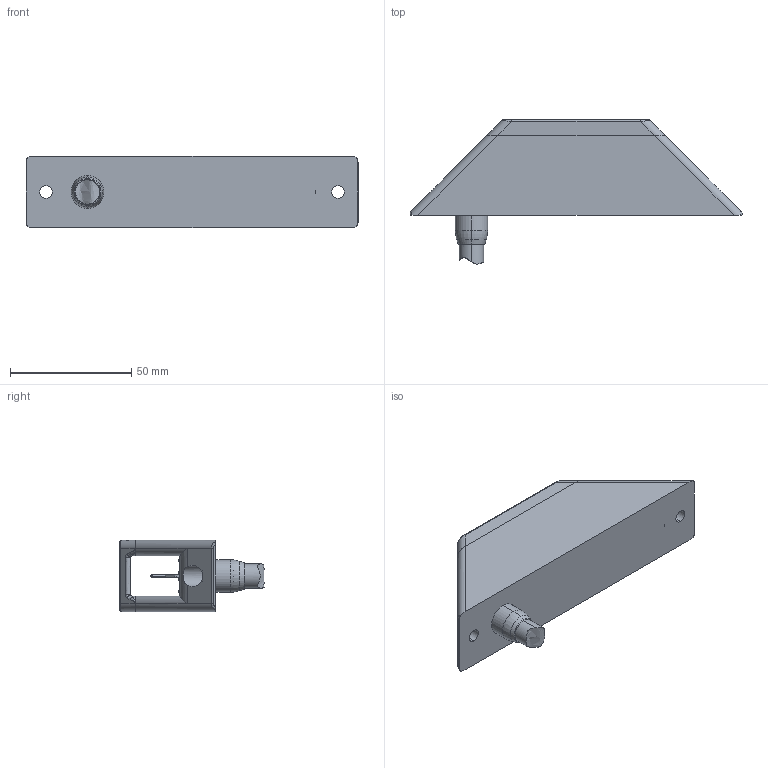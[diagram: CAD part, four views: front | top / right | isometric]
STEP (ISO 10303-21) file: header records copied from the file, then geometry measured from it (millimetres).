
FILE_DESCRIPTION (( 'STEP AP214' ), '1' );
FILE_NAME ('10073 Model 501-2 MCIL8M RevA NO DETAILS.STEP', '2025-08-17T04:33:00', ( '' ), ( '' ), 'SwSTEP 2.0', 'SolidWorks 2023', '' );
FILE_SCHEMA (( 'AUTOMOTIVE_DESIGN' ));
Length unit declared in the file: inch
Products named in the file (1): 10073 Model 501-2 MCIL8M RevA NO DETAILS
Bounding box: 137.16 x 59.5 x 29.44 mm (x, y, z)
Volume: 83485.9 mm3; surface area: 29552.4 mm2
Topology: 13 solids, 13 shells, 695 faces, 1817 edges, 1157 vertices
Faces by surface type: cylinder 328, plane 192, cone 92, bspline 43, torus 38, sphere 2
Entity records: 40423 total; most frequent: CARTESIAN_POINT 15381, ORIENTED_EDGE 3586, DIRECTION 3059, EDGE_CURVE 1793, AXIS2_PLACEMENT_3D 1162, VERTEX_POINT 1155, EDGE_LOOP 754, LINE 735
